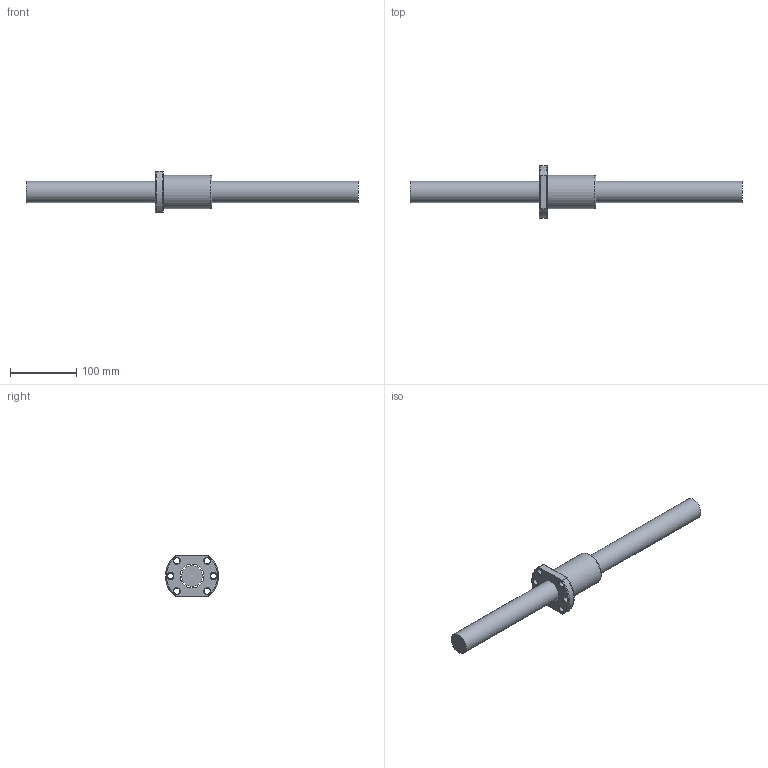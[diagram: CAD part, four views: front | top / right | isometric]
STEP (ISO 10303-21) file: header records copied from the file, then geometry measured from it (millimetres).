
FILE_DESCRIPTION (( 'STEP AP203' ), '1' );
FILE_NAME ('SFNU03210D-4.step', '2024-05-14T06:34:37', ( '' ), ( '' ), 'SwSTEP 2.0', 'SolidWorks 2022', '' );
FILE_SCHEMA (( 'CONFIG_CONTROL_DESIGN' ));
Length unit declared in the file: millimetre
Products named in the file (1): SFNU03210D-4
Bounding box: 500 x 79.74 x 62 mm (x, y, z)
Volume: 505935.1 mm3; surface area: 83736.7 mm2
Topology: 2 solids, 2 shells, 54 faces, 139 edges, 90 vertices
Faces by surface type: cylinder 19, cone 13, plane 12, bspline 5, torus 5
Full cylindrical faces by diameter (mm): 4 x1, 5 x6, 9 x6, 32 x1, 36.1 x1, 50 x1
Entity records: 3153 total; most frequent: CARTESIAN_POINT 2117, DIRECTION 186, ORIENTED_EDGE 166, EDGE_LOOP 90, AXIS2_PLACEMENT_3D 85, EDGE_CURVE 83, VERTEX_POINT 67, FACE_OUTER_BOUND 60
